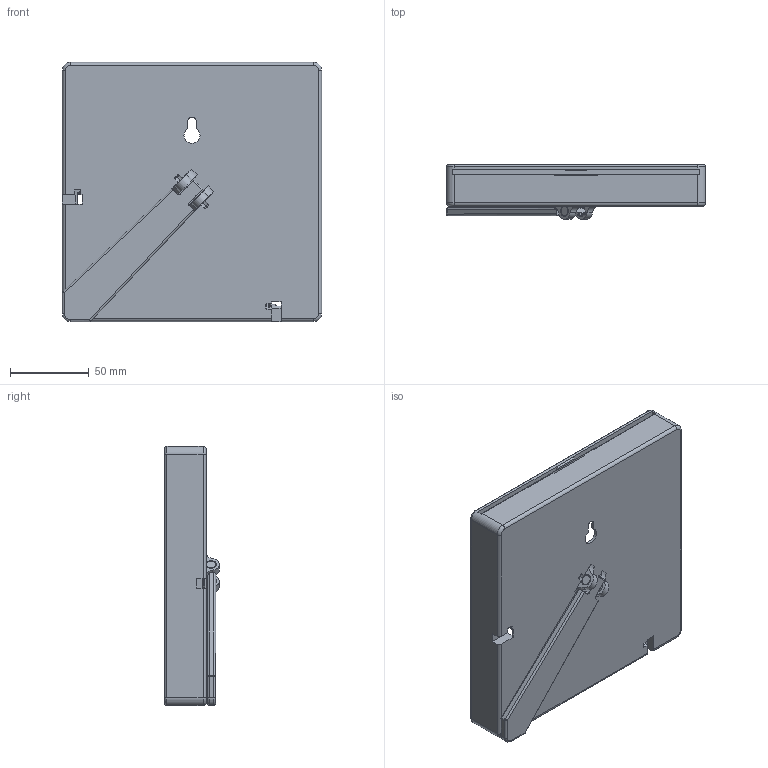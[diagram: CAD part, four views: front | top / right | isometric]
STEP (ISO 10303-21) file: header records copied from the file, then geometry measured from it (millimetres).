
FILE_DESCRIPTION((''),'2;1');
FILE_NAME('3X3V2','2025-02-14T18:21:30',('qinghui.yi'),(''),'CREO PARAMETRIC BY PTC INC, 2019164','CREO PARAMETRIC BY PTC INC, 2019164','');
FILE_SCHEMA(('CONFIG_CONTROL_DESIGN','SHAPE_APPEARANCE_LAYERS_GROUPS'));
Length unit declared in the file: millimetre
Products named in the file (1): 3X3V2
Bounding box: 165 x 34.7 x 165 mm (x, y, z)
Volume: 203860.9 mm3; surface area: 99202.5 mm2
Topology: 2 solids, 5 shells, 340 faces, 956 edges, 610 vertices
Faces by surface type: plane 239, cylinder 78, torus 12, bspline 5, cone 4, sphere 2
Entity records: 12335 total; most frequent: CARTESIAN_POINT 3200, ORIENTED_EDGE 1912, DIRECTION 1720, EDGE_CURVE 956, VECTOR 736, LINE 736, VERTEX_POINT 610, AXIS2_PLACEMENT_3D 492
